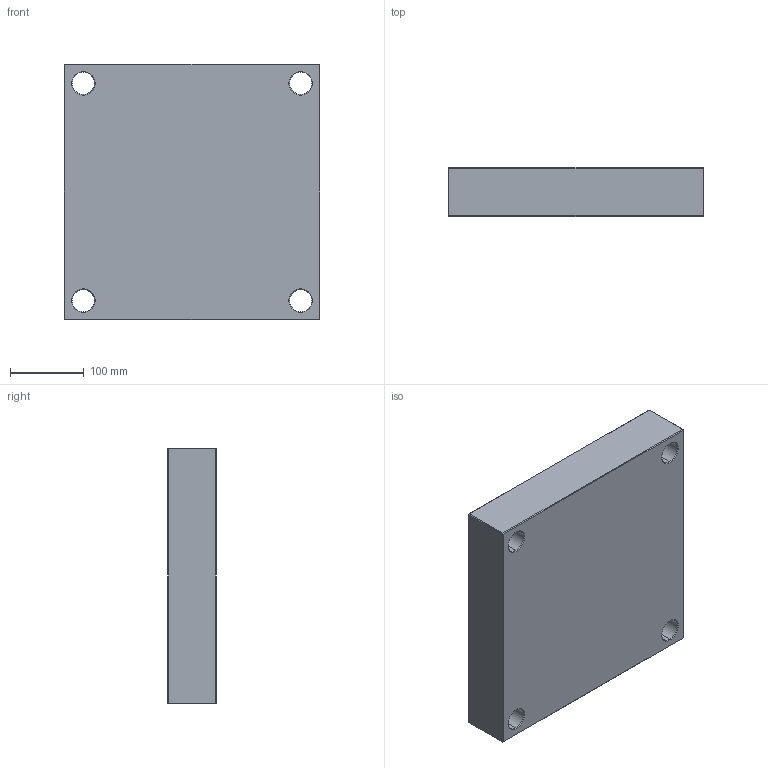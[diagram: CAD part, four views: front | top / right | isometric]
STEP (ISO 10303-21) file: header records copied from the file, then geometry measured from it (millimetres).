
FILE_DESCRIPTION (( 'STEP AP214' ), '1' );
FILE_NAME ('PC-346x346x66.STEP', '2020-04-21T16:47:32', ( 'August' ), ( '' ), 'SwSTEP 2.0', 'SolidWorks 2018', '' );
FILE_SCHEMA (( 'AUTOMOTIVE_DESIGN' ));
Length unit declared in the file: millimetre
Products named in the file (1): PC-346x346x66
Bounding box: 346 x 66 x 346 mm (x, y, z)
Volume: 7693937.1 mm3; surface area: 351759 mm2
Topology: 1 solids, 1 shells, 82 faces, 168 edges, 96 vertices
Faces by surface type: plane 34, cone 24, cylinder 24
Entity records: 2170 total; most frequent: DIRECTION 406, CARTESIAN_POINT 347, ORIENTED_EDGE 336, EDGE_CURVE 168, AXIS2_PLACEMENT_3D 155, EDGE_LOOP 98, LINE 96, VERTEX_POINT 96
